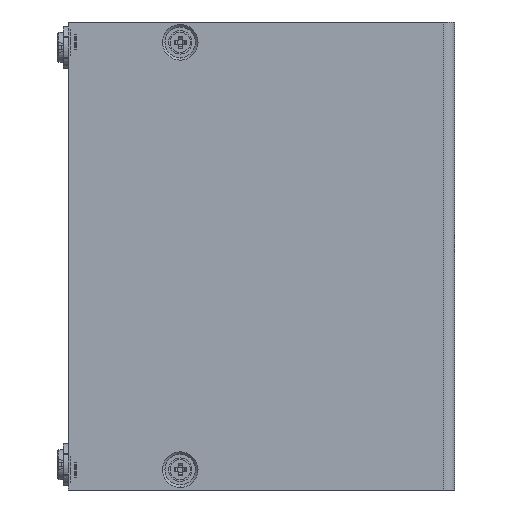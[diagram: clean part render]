
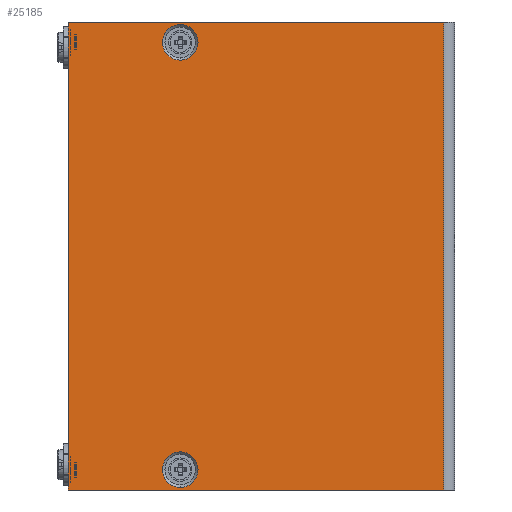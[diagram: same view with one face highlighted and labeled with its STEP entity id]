
A CAD part, left-side view. The second image highlights one B-rep face of the part: STEP entity #25185.
In plain terms, the highlighted planar face has unit normal (-1, 0, 0).
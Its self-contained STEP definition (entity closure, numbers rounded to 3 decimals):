
#5132 = EDGE_CURVE ( 'NONE', #5134, #5154, #31772, .T. ) ;
#5134 = VERTEX_POINT ( 'NONE', #31721 ) ;
#5154 = VERTEX_POINT ( 'NONE', #31766 ) ;
#5162 = VERTEX_POINT ( 'NONE', #31787 ) ;
#5171 = EDGE_CURVE ( 'NONE', #5162, #5173, #31826, .T. ) ;
#5173 = VERTEX_POINT ( 'NONE', #31834 ) ;
#13171 = DIRECTION ( 'NONE',  ( 0., 0., -1. ) ) ;
#13172 = VECTOR ( 'NONE', #13171, 1000. ) ;
#13173 = LINE ( 'NONE', #13181, #13172 ) ;
#13176 = DIRECTION ( 'NONE',  ( 0., 0., -1. ) ) ;
#13177 = DIRECTION ( 'NONE',  ( 1., 0., 0. ) ) ;
#13178 = CARTESIAN_POINT ( 'NONE',  ( -20., 0., -23. ) ) ;
#13179 = CARTESIAN_POINT ( 'NONE',  ( -20., 0., -23. ) ) ;
#13181 = CARTESIAN_POINT ( 'NONE',  ( -20., -36.9, 23. ) ) ;
#13188 = PLANE ( 'NONE',  #13195 ) ;
#13190 = FACE_OUTER_BOUND ( 'NONE', #25017, .T. ) ;
#13191 = CARTESIAN_POINT ( 'NONE',  ( -20., -36.9, 23. ) ) ;
#13192 = CARTESIAN_POINT ( 'NONE',  ( -20., -36.9, -23. ) ) ;
#13195 = AXIS2_PLACEMENT_3D ( 'NONE', #13178, #13177, #13176 ) ;
#13196 = FACE_BOUND ( 'NONE', #25279, .T. ) ;
#13198 = FACE_BOUND ( 'NONE', #25212, .T. ) ;
#13213 = DIRECTION ( 'NONE',  ( 0., -1., 0. ) ) ;
#13214 = VECTOR ( 'NONE', #13213, 1000. ) ;
#13215 = LINE ( 'NONE', #13230, #13214 ) ;
#13221 = DIRECTION ( 'NONE',  ( 0., -1., 0. ) ) ;
#13222 = VECTOR ( 'NONE', #13221, 1000. ) ;
#13223 = LINE ( 'NONE', #13179, #13222 ) ;
#13230 = CARTESIAN_POINT ( 'NONE',  ( -20., 0., 23. ) ) ;
#13232 = CARTESIAN_POINT ( 'NONE',  ( -20., -11., -21. ) ) ;
#13239 = CIRCLE ( 'NONE', #13242, 1.75 ) ;
#13240 = CARTESIAN_POINT ( 'NONE',  ( -20., -11., 21. ) ) ;
#13242 = AXIS2_PLACEMENT_3D ( 'NONE', #13240, #13299, #13298 ) ;
#13253 = AXIS2_PLACEMENT_3D ( 'NONE', #13232, #13285, #13283 ) ;
#13283 = DIRECTION ( 'NONE',  ( 0., 0., 1. ) ) ;
#13285 = DIRECTION ( 'NONE',  ( -1., 0., 0. ) ) ;
#13296 = CIRCLE ( 'NONE', #13253, 1.75 ) ;
#13298 = DIRECTION ( 'NONE',  ( 0., 0., 1. ) ) ;
#13299 = DIRECTION ( 'NONE',  ( -1., 0., 0. ) ) ;
#25017 = EDGE_LOOP ( 'NONE', ( #25191, #25186, #25204, #25231 ) ) ;
#25160 = VERTEX_POINT ( 'NONE', #13192 ) ;
#25173 = VERTEX_POINT ( 'NONE', #13191 ) ;
#25185 = ADVANCED_FACE ( 'NONE', ( #13190, #13198, #13196 ), #13188, .F. ) ;
#25186 = ORIENTED_EDGE ( 'NONE', *, *, #25194, .F. ) ;
#25191 = ORIENTED_EDGE ( 'NONE', *, *, #25203, .T. ) ;
#25194 = EDGE_CURVE ( 'NONE', #25173, #25160, #13173, .T. ) ;
#25203 = EDGE_CURVE ( 'NONE', #31547, #25160, #13223, .T. ) ;
#25204 = ORIENTED_EDGE ( 'NONE', *, *, #25207, .F. ) ;
#25207 = EDGE_CURVE ( 'NONE', #31538, #25173, #13215, .T. ) ;
#25212 = EDGE_LOOP ( 'NONE', ( #25289, #25286 ) ) ;
#25231 = ORIENTED_EDGE ( 'NONE', *, *, #31545, .F. ) ;
#25279 = EDGE_LOOP ( 'NONE', ( #25282, #25295 ) ) ;
#25282 = ORIENTED_EDGE ( 'NONE', *, *, #25292, .F. ) ;
#25285 = EDGE_CURVE ( 'NONE', #5154, #5134, #13239, .T. ) ;
#25286 = ORIENTED_EDGE ( 'NONE', *, *, #5132, .F. ) ;
#25289 = ORIENTED_EDGE ( 'NONE', *, *, #25285, .F. ) ;
#25292 = EDGE_CURVE ( 'NONE', #5173, #5162, #13296, .T. ) ;
#25295 = ORIENTED_EDGE ( 'NONE', *, *, #5171, .F. ) ;
#27003 = CARTESIAN_POINT ( 'NONE',  ( -20., 0., 23. ) ) ;
#28238 = CARTESIAN_POINT ( 'NONE',  ( -20., 0., -23. ) ) ;
#28319 = DIRECTION ( 'NONE',  ( 0., 0., 1. ) ) ;
#28320 = VECTOR ( 'NONE', #28319, 1000. ) ;
#28322 = CARTESIAN_POINT ( 'NONE',  ( -20., 0., -23. ) ) ;
#28323 = LINE ( 'NONE', #28322, #28320 ) ;
#31538 = VERTEX_POINT ( 'NONE', #27003 ) ;
#31545 = EDGE_CURVE ( 'NONE', #31547, #31538, #28323, .T. ) ;
#31547 = VERTEX_POINT ( 'NONE', #28238 ) ;
#31721 = CARTESIAN_POINT ( 'NONE',  ( -20., -11., 19.25 ) ) ;
#31752 = DIRECTION ( 'NONE',  ( 0., 0., 1. ) ) ;
#31753 = DIRECTION ( 'NONE',  ( -1., 0., 0. ) ) ;
#31766 = CARTESIAN_POINT ( 'NONE',  ( -20., -11., 22.75 ) ) ;
#31771 = CARTESIAN_POINT ( 'NONE',  ( -20., -11., 21. ) ) ;
#31772 = CIRCLE ( 'NONE', #31780, 1.75 ) ;
#31780 = AXIS2_PLACEMENT_3D ( 'NONE', #31771, #31753, #31752 ) ;
#31787 = CARTESIAN_POINT ( 'NONE',  ( -20., -11., -22.75 ) ) ;
#31822 = DIRECTION ( 'NONE',  ( 0., 0., 1. ) ) ;
#31823 = DIRECTION ( 'NONE',  ( -1., 0., 0. ) ) ;
#31824 = CARTESIAN_POINT ( 'NONE',  ( -20., -11., -21. ) ) ;
#31825 = AXIS2_PLACEMENT_3D ( 'NONE', #31824, #31823, #31822 ) ;
#31826 = CIRCLE ( 'NONE', #31825, 1.75 ) ;
#31834 = CARTESIAN_POINT ( 'NONE',  ( -20., -11., -19.25 ) ) ;
